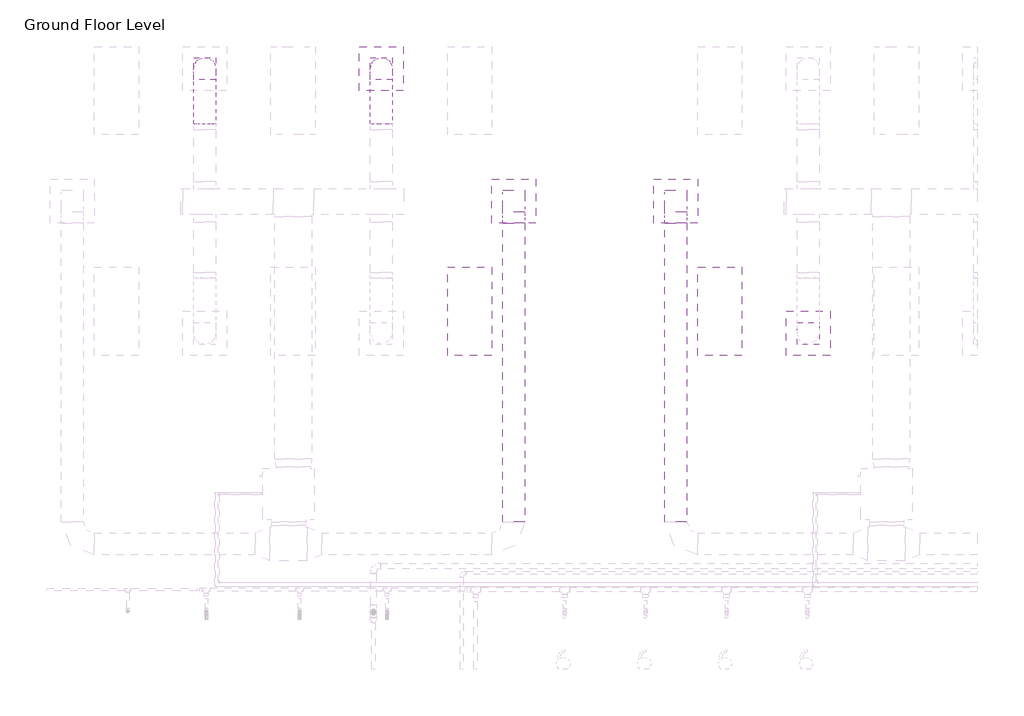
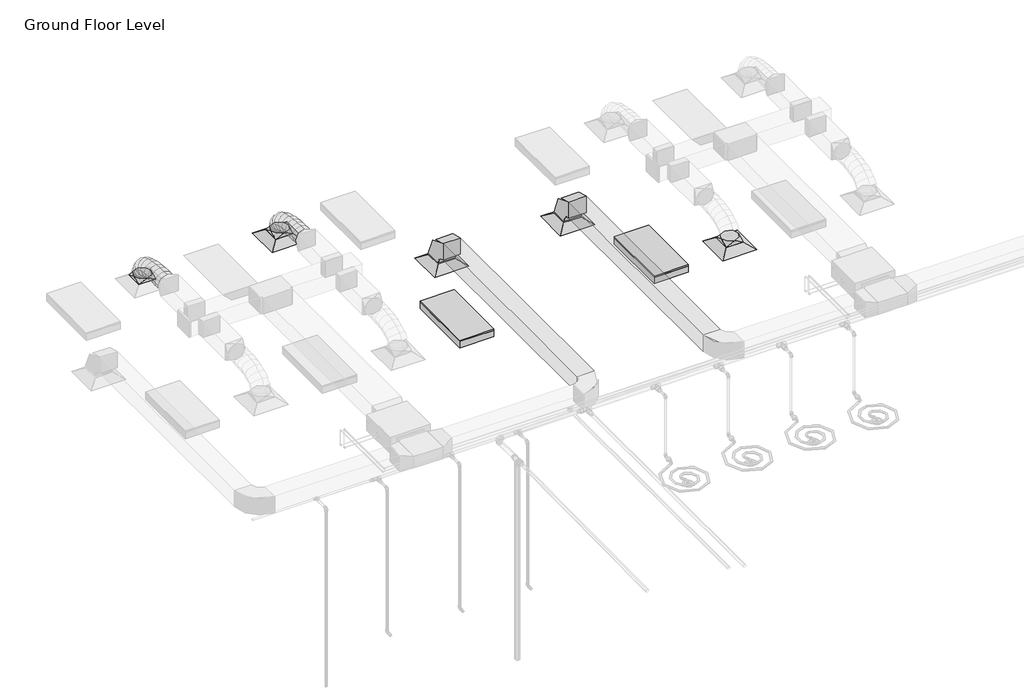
# One storey, part 55 of 74: 6 duct segments, 5 duct fittings, 4 air terminals, 2 light fixtures.
"""IFC4 building model written with IfcOpenShell, lengths in millimetres."""

from ifc_helpers import new_model, si_unit, frame, origin, place, context, project, spatial, polyline, circle_curve, ellipse_curve, outline, extrude, transform, mapped, element, save
from ifc_brep_helpers import plane_surface, cylinder_surface, advanced_brep
from components import m_return_diffuser_600_x_600_face_300_x_300_connection_ff221211, m_rectangular_elbow_radius_1_w_618da153, m_rectangular_to_round_transition_angle_45_degree_641efff0, m_troffer_light_parabolic_rectangular1_0600x1200mm_4_lamp_86473d4a

model = new_model("IFC4")

# Units and contexts
model_context = context("Model", 3, world=origin())
ifc_project = project(units=[si_unit("LENGTHUNIT", "METRE", prefix="MILLI")], contexts=[model_context])

# Site, building, storey
site = spatial("IfcSite", under=ifc_project)
building = spatial("IfcBuilding", under=site)
storey = spatial("IfcBuildingStorey", under=building, Name="Ground Floor Level", Elevation=900.0)

# Air terminals
placement = place(None, origin())
m_return_diffuser_600_x_600_face_300_x_300_connection_shape = m_return_diffuser_600_x_600_face_300_x_300_connection_ff221211(model_context)
element("IfcAirTerminal", 1, ObjectType="M_Return Diffuser : 600 x 600 Face 300 x 300 Connection", at=placement, inside=storey, context=model_context, shape_type="MappedRepresentation", body=[
    mapped(m_return_diffuser_600_x_600_face_300_x_300_connection_shape, transform((-14937.2327605, 18735.2153534, 3650.0), x_axis=(1.0, 0.0, 0.0), y_axis=(0.0, 1.0, 0.0), z_axis=(0.0, 0.0, 1.0))),
])
element("IfcAirTerminal", 2, ObjectType="M_Return Diffuser : 600 x 600 Face 300 x 300 Connection", at=placement, inside=storey, context=model_context, shape_type="MappedRepresentation", body=[
    mapped(m_return_diffuser_600_x_600_face_300_x_300_connection_shape, transform((-12737.2327605, 18735.2153534, 3650.0), x_axis=(1.0, 0.0, 0.0), y_axis=(0.0, 1.0, 0.0), z_axis=(0.0, 0.0, 1.0))),
])
element("IfcAirTerminal", 3, ObjectType="M_Supply Diffuser : 600 x 600 Face 300 x 300 Connection", at=placement, inside=storey, context=model_context, shape_type="MappedRepresentation", body=[
    mapped(m_return_diffuser_600_x_600_face_300_x_300_connection_shape, transform((-16737.2327605, 20535.2153534, 3650.0), x_axis=(1.0, 0.0, 0.0), y_axis=(0.0, 1.0, 0.0), z_axis=(0.0, 0.0, 1.0))),
])
element("IfcAirTerminal", 4, ObjectType="M_Supply Diffuser : 600 x 600 Face 300 x 300 Connection", at=placement, inside=storey, context=model_context, shape_type="MappedRepresentation", body=[
    mapped(m_return_diffuser_600_x_600_face_300_x_300_connection_shape, transform((-10937.2327605, 16935.2153534, 3650.0), x_axis=(1.0, 0.0, 0.0), y_axis=(0.0, 1.0, 0.0), z_axis=(0.0, 0.0, 1.0))),
])

# Duct fittings
m_rectangular_elbow_radius_1_w_shape = m_rectangular_elbow_radius_1_w_618da153(model_context)
element("IfcDuctFitting", 5, ObjectType="M_Rectangular Elbow - Radius : 1 W", at=placement, inside=storey, context=model_context, shape_type="MappedRepresentation", body=[
    mapped(m_rectangular_elbow_radius_1_w_shape, transform((-14937.2327605, 18735.2153534, 4075.2881511), x_axis=(0.0, 0.0, 1.0), y_axis=(0.0, -1.0, 0.0), z_axis=(1.0, 0.0, 0.0))),
])
element("IfcDuctFitting", 6, ObjectType="M_Rectangular Elbow - Radius : 1 W", at=placement, inside=storey, context=model_context, shape_type="MappedRepresentation", body=[
    mapped(m_rectangular_elbow_radius_1_w_shape, transform((-12737.2327605, 18735.2153534, 4075.2872564), x_axis=(0.0, 0.0, 1.0), y_axis=(0.0, -1.0, 0.0), z_axis=(1.0, 0.0, 0.0))),
])
m_rectangular_to_round_transition_angle_45_degree_shape = m_rectangular_to_round_transition_angle_45_degree_641efff0(model_context)
element("IfcDuctFitting", 7, ObjectType="M_Rectangular to Round Transition - Angle : 45 Degree", at=placement, inside=storey, context=model_context, shape_type="MappedRepresentation", body=[
    mapped(m_rectangular_to_round_transition_angle_45_degree_shape, transform((-19137.2327605, 20535.2153534, 3751.6), x_axis=(0.0, 0.0, 1.0), y_axis=(-1.0, 0.0, 0.0), z_axis=(0.0, -1.0, 0.0))),
])
element("IfcDuctFitting", 8, ObjectType="M_Rectangular to Round Transition - Angle : 45 Degree", at=placement, inside=storey, context=model_context, shape_type="MappedRepresentation", body=[
    mapped(m_rectangular_to_round_transition_angle_45_degree_shape, transform((-16737.2327605, 20535.2153534, 3751.6), x_axis=(0.0, 0.0, 1.0), y_axis=(-1.0, 0.0, 0.0), z_axis=(0.0, -1.0, 0.0))),
])
element("IfcDuctFitting", 9, ObjectType="M_Rectangular to Round Transition - Angle : 45 Degree", at=placement, inside=storey, context=model_context, shape_type="MappedRepresentation", body=[
    mapped(m_rectangular_to_round_transition_angle_45_degree_shape, transform((-10937.2327605, 16935.2153534, 3751.6), x_axis=(0.0, 0.0, 1.0), y_axis=(-1.0, 0.0, 0.0), z_axis=(0.0, -1.0, 0.0))),
])

# Duct segments
element("IfcDuctSegment", 10, ObjectType="Flex - Round", at=placement, inside=storey, context=model_context, shape_type="AdvancedBrep", body=[
    advanced_brep(
    [(-18987.2327605, 20535.2153534, 3826.6), (-19137.2327605, 20385.2153534, 3826.6), (-19287.2327605, 20535.2153534, 3826.6), (-19137.2327605, 20685.2153534, 3826.6), (-18987.2327605, 20535.2153534, 3857.9377363), (-19137.2327605, 20385.2153534, 3832.2944836), (-19287.2327605, 20535.2153534, 3857.9377363), (-19137.2327605, 20685.2153534, 3883.580989), (-18987.2327605, 20518.1994044, 3906.2505836), (-19137.2327605, 20384.4614628, 3834.4349814), (-19287.2327605, 20518.1994044, 3906.2505836), (-19137.2327605, 20651.937346, 3978.0661859), (-18987.2327605, 20471.0154793, 3968.711286), (-19137.2327605, 20366.8096815, 3857.8018941), (-19287.2327605, 20471.0154793, 3968.711286), (-19137.2327605, 20575.2212771, 4079.6206779), (-18987.2327605, 20399.4594609, 4016.0699627), (-19137.2327605, 20330.5255652, 3881.8161947), (-19287.2327605, 20399.4594609, 4016.0699627), (-19137.2327605, 20468.3933566, 4150.3237308), (-18987.2327605, 20309.327232, 4050.4144697), (-19137.2327605, 20265.7666436, 3906.4923095), (-19287.2327605, 20309.327232, 4050.4144697), (-19137.2327605, 20352.8878205, 4194.3366298), (-18987.2327605, 20206.4146755, 4073.8326625), (-19137.2327605, 20179.8539172, 3926.0421182), (-19287.2327605, 20206.4146755, 4073.8326625), (-19137.2327605, 20232.9754339, 4221.6232067), (-18987.2327605, 20096.5176742, 4088.4123969), (-19137.2327605, 20081.3669159, 3939.1081192), (-19287.2327605, 20096.5176742, 4088.4123969), (-19137.2327605, 20111.6684325, 4237.7166746), (-18987.2327605, 19985.4321108, 4096.2415287), (-19137.2327605, 19977.9268947, 3946.3984054), (-19287.2327605, 19985.4321108, 4096.2415287), (-19137.2327605, 19992.937327, 4246.0846519), (-18987.2327605, 19878.9538683, 4099.4079135), (-19137.2327605, 19876.262441, 3949.4216408), (-19287.2327605, 19878.9538683, 4099.4079135), (-19137.2327605, 19881.6452955, 4249.3941863), (-18987.2327605, 19782.8788293, 4099.9994072), (-19137.2327605, 19783.8022988, 4249.9965645), (-19287.2327605, 19782.8788293, 4099.9994072), (-19137.2327605, 19781.9553598, 3950.0022499)],
    [
        (0, 1, circle_curve(frame((-19137.2327605, 20535.2153534, 3826.6), z_axis=(0.0, 0.0, -1.0), x_axis=(1.0, 0.0, 0.0)), 150.0)),
        (1, 2, circle_curve(frame((-19137.2327605, 20535.2153534, 3826.6), z_axis=(0.0, 0.0, -1.0), x_axis=(1.0, 0.0, 0.0)), 150.0)),
        (2, 3, circle_curve(frame((-19137.2327605, 20535.2153534, 3826.6), z_axis=(0.0, 0.0, -1.0), x_axis=(1.0, 0.0, 0.0)), 150.0)),
        (3, 0, circle_curve(frame((-19137.2327605, 20535.2153534, 3826.6), z_axis=(0.0, 0.0, -1.0), x_axis=(1.0, 0.0, 0.0)), 150.0)),
        (0, 4),
        (4, 5, ellipse_curve(frame((-19137.2327605, 20535.2153534, 3857.9377363), z_axis=(0.0, 0.16851034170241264, -0.9856998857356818), x_axis=(0.0, -0.9856998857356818, -0.16851034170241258)), 152.1761361, 150.0)),
        (5, 1),
        (5, 6, ellipse_curve(frame((-19137.2327605, 20535.2153534, 3857.9377363), z_axis=(0.0, 0.16851034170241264, -0.9856998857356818), x_axis=(0.0, -0.9856998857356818, -0.16851034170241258)), 152.1761361, 150.0)),
        (6, 2),
        (6, 7, ellipse_curve(frame((-19137.2327605, 20535.2153534, 3857.9377363), z_axis=(0.0, 0.16851034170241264, -0.9856998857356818), x_axis=(0.0, -0.9856998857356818, -0.16851034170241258)), 152.1761361, 150.0)),
        (7, 3),
        (7, 4, ellipse_curve(frame((-19137.2327605, 20535.2153534, 3857.9377363), z_axis=(0.0, 0.16851034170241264, -0.9856998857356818), x_axis=(0.0, -0.9856998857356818, -0.16851034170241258)), 152.1761361, 150.0)),
        (4, 8),
        (8, 9, ellipse_curve(frame((-19137.2327605, 20518.1994044, 3906.2505836), z_axis=(0.0, 0.4730927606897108, -0.8810126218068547), x_axis=(0.0, -0.8810126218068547, -0.47309276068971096)), 151.8002561, 150.0)),
        (9, 5),
        (9, 10, ellipse_curve(frame((-19137.2327605, 20518.1994044, 3906.2505836), z_axis=(0.0, 0.4730927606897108, -0.8810126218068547), x_axis=(0.0, -0.8810126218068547, -0.47309276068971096)), 151.8002561, 150.0)),
        (10, 6),
        (10, 11, ellipse_curve(frame((-19137.2327605, 20518.1994044, 3906.2505836), z_axis=(0.0, 0.4730927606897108, -0.8810126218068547), x_axis=(0.0, -0.8810126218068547, -0.47309276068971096)), 151.8002561, 150.0)),
        (11, 7),
        (11, 8, ellipse_curve(frame((-19137.2327605, 20518.1994044, 3906.2505836), z_axis=(0.0, 0.4730927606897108, -0.8810126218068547), x_axis=(0.0, -0.8810126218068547, -0.47309276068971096)), 151.8002561, 150.0)),
        (8, 12),
        (12, 13, ellipse_curve(frame((-19137.2327605, 20471.0154793, 3968.711286), z_axis=(0.0, 0.7287884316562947, -0.6847389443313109), x_axis=(0.0, -0.6847389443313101, -0.7287884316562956)), 152.1832498, 150.0)),
        (13, 9),
        (13, 14, ellipse_curve(frame((-19137.2327605, 20471.0154793, 3968.711286), z_axis=(0.0, 0.7287884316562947, -0.6847389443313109), x_axis=(0.0, -0.6847389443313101, -0.7287884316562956)), 152.1832498, 150.0)),
        (14, 10),
        (14, 15, ellipse_curve(frame((-19137.2327605, 20471.0154793, 3968.711286), z_axis=(0.0, 0.7287884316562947, -0.6847389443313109), x_axis=(0.0, -0.6847389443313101, -0.7287884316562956)), 152.1832498, 150.0)),
        (15, 11),
        (15, 12, ellipse_curve(frame((-19137.2327605, 20471.0154793, 3968.711286), z_axis=(0.0, 0.7287884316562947, -0.6847389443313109), x_axis=(0.0, -0.6847389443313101, -0.7287884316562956)), 152.1832498, 150.0)),
        (12, 16),
        (16, 17, ellipse_curve(frame((-19137.2327605, 20399.4594609, 4016.0699627), z_axis=(0.0, 0.8895864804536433, -0.45676678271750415), x_axis=(0.0, -0.4567667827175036, -0.8895864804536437)), 150.9170508, 150.0)),
        (17, 13),
        (17, 18, ellipse_curve(frame((-19137.2327605, 20399.4594609, 4016.0699627), z_axis=(0.0, 0.8895864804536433, -0.45676678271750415), x_axis=(0.0, -0.4567667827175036, -0.8895864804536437)), 150.9170508, 150.0)),
        (18, 14),
        (18, 19, ellipse_curve(frame((-19137.2327605, 20399.4594609, 4016.0699627), z_axis=(0.0, 0.8895864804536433, -0.45676678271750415), x_axis=(0.0, -0.4567667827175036, -0.8895864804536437)), 150.9170508, 150.0)),
        (19, 15),
        (19, 16, ellipse_curve(frame((-19137.2327605, 20399.4594609, 4016.0699627), z_axis=(0.0, 0.8895864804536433, -0.45676678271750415), x_axis=(0.0, -0.4567667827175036, -0.8895864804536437)), 150.9170508, 150.0)),
        (16, 20),
        (20, 21, ellipse_curve(frame((-19137.2327605, 20309.327232, 4050.4144697), z_axis=(0.0, 0.9571206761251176, -0.28968950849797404), x_axis=(0.0, -0.2896895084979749, -0.9571206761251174)), 150.3699207, 150.0)),
        (21, 17),
        (21, 22, ellipse_curve(frame((-19137.2327605, 20309.327232, 4050.4144697), z_axis=(0.0, 0.9571206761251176, -0.28968950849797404), x_axis=(0.0, -0.2896895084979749, -0.9571206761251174)), 150.3699207, 150.0)),
        (22, 18),
        (22, 23, ellipse_curve(frame((-19137.2327605, 20309.327232, 4050.4144697), z_axis=(0.0, 0.9571206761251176, -0.28968950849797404), x_axis=(0.0, -0.2896895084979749, -0.9571206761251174)), 150.3699207, 150.0)),
        (23, 19),
        (23, 20, ellipse_curve(frame((-19137.2327605, 20309.327232, 4050.4144697), z_axis=(0.0, 0.9571206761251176, -0.28968950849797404), x_axis=(0.0, -0.2896895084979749, -0.9571206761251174)), 150.3699207, 150.0)),
        (20, 24),
        (24, 25, ellipse_curve(frame((-19137.2327605, 20206.4146755, 4073.8326625), z_axis=(0.0, 0.9842315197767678, -0.17688503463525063), x_axis=(0.0, -0.17688503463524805, -0.9842315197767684)), 150.1583126, 150.0)),
        (25, 21),
        (25, 26, ellipse_curve(frame((-19137.2327605, 20206.4146755, 4073.8326625), z_axis=(0.0, 0.9842315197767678, -0.17688503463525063), x_axis=(0.0, -0.17688503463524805, -0.9842315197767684)), 150.1583126, 150.0)),
        (26, 22),
        (26, 27, ellipse_curve(frame((-19137.2327605, 20206.4146755, 4073.8326625), z_axis=(0.0, 0.9842315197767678, -0.17688503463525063), x_axis=(0.0, -0.17688503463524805, -0.9842315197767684)), 150.1583126, 150.0)),
        (27, 23),
        (27, 24, ellipse_curve(frame((-19137.2327605, 20206.4146755, 4073.8326625), z_axis=(0.0, 0.9842315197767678, -0.17688503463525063), x_axis=(0.0, -0.17688503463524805, -0.9842315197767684)), 150.1583126, 150.0)),
        (24, 28),
        (28, 29, ellipse_curve(frame((-19137.2327605, 20096.5176742, 4088.4123969), z_axis=(0.0, 0.994890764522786, -0.10095725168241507), x_axis=(0.0, -0.10095725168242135, -0.9948907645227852)), 150.0710259, 150.0)),
        (29, 25),
        (29, 30, ellipse_curve(frame((-19137.2327605, 20096.5176742, 4088.4123969), z_axis=(0.0, 0.994890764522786, -0.10095725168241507), x_axis=(0.0, -0.10095725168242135, -0.9948907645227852)), 150.0710259, 150.0)),
        (30, 26),
        (30, 31, ellipse_curve(frame((-19137.2327605, 20096.5176742, 4088.4123969), z_axis=(0.0, 0.994890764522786, -0.10095725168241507), x_axis=(0.0, -0.10095725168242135, -0.9948907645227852)), 150.0710259, 150.0)),
        (31, 27),
        (31, 28, ellipse_curve(frame((-19137.2327605, 20096.5176742, 4088.4123969), z_axis=(0.0, 0.994890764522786, -0.10095725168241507), x_axis=(0.0, -0.10095725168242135, -0.9948907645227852)), 150.0710259, 150.0)),
        (28, 32),
        (32, 33, ellipse_curve(frame((-19137.2327605, 19985.4321108, 4096.2415287), z_axis=(0.0, 0.9987479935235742, -0.05002444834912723), x_axis=(0.0, -0.05002444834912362, -0.9987479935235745)), 150.030963, 150.0)),
        (33, 29),
        (33, 34, ellipse_curve(frame((-19137.2327605, 19985.4321108, 4096.2415287), z_axis=(0.0, 0.9987479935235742, -0.05002444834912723), x_axis=(0.0, -0.05002444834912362, -0.9987479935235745)), 150.030963, 150.0)),
        (34, 30),
        (34, 35, ellipse_curve(frame((-19137.2327605, 19985.4321108, 4096.2415287), z_axis=(0.0, 0.9987479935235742, -0.05002444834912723), x_axis=(0.0, -0.05002444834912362, -0.9987479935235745)), 150.030963, 150.0)),
        (35, 31),
        (35, 32, ellipse_curve(frame((-19137.2327605, 19985.4321108, 4096.2415287), z_axis=(0.0, 0.9987479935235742, -0.05002444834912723), x_axis=(0.0, -0.05002444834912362, -0.9987479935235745)), 150.030963, 150.0)),
        (32, 36),
        (36, 37, ellipse_curve(frame((-19137.2327605, 19878.9538683, 4099.4079135), z_axis=(0.0, 0.9998390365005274, -0.017941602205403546), x_axis=(0.0, -0.01794160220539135, -0.9998390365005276)), 150.0104189, 150.0)),
        (37, 33),
        (37, 38, ellipse_curve(frame((-19137.2327605, 19878.9538683, 4099.4079135), z_axis=(0.0, 0.9998390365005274, -0.017941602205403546), x_axis=(0.0, -0.01794160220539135, -0.9998390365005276)), 150.0104189, 150.0)),
        (38, 34),
        (38, 39, ellipse_curve(frame((-19137.2327605, 19878.9538683, 4099.4079135), z_axis=(0.0, 0.9998390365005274, -0.017941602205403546), x_axis=(0.0, -0.01794160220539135, -0.9998390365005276)), 150.0104189, 150.0)),
        (39, 35),
        (39, 36, ellipse_curve(frame((-19137.2327605, 19878.9538683, 4099.4079135), z_axis=(0.0, 0.9998390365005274, -0.017941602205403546), x_axis=(0.0, -0.01794160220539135, -0.9998390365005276)), 150.0104189, 150.0)),
        (40, 41, circle_curve(frame((-19137.2327605, 19782.8788293, 4099.9994072), z_axis=(0.0, -0.9999810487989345, 0.006156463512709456), x_axis=(1.0, 0.0, 0.0)), 150.0)),
        (41, 42, circle_curve(frame((-19137.2327605, 19782.8788293, 4099.9994072), z_axis=(0.0, -0.9999810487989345, 0.006156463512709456), x_axis=(1.0, 0.0, 0.0)), 150.0)),
        (42, 43, circle_curve(frame((-19137.2327605, 19782.8788293, 4099.9994072), z_axis=(0.0, -0.9999810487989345, 0.006156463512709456), x_axis=(1.0, 0.0, 0.0)), 150.0)),
        (43, 40, circle_curve(frame((-19137.2327605, 19782.8788293, 4099.9994072), z_axis=(0.0, -0.9999810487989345, 0.006156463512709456), x_axis=(1.0, 0.0, 0.0)), 150.0)),
        (36, 40),
        (43, 37),
        (42, 38),
        (41, 39),
    ],
    [
        plane_surface(frame((-19137.2327605, 20385.2153534, 3826.6), z_axis=(0.0, 0.0, -1.0), x_axis=(1.0, 0.0, 0.0))),
        cylinder_surface(frame((-19137.2327605, 20535.2153534, 3826.6), z_axis=(0.0, 0.0, -1.0), x_axis=(1.0, 0.0, 0.0)), 150.0),
        cylinder_surface(frame((-19137.2327605, 20535.2153534, 3857.9377363), z_axis=(0.0, 0.33220124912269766, -0.9432085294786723), x_axis=(1.0, 0.0, 0.0)), 150.0),
        cylinder_surface(frame((-19137.2327605, 20518.1994044, 3906.2505836), z_axis=(0.0, 0.602763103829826, -0.7979201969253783), x_axis=(1.0, 0.0, 0.0)), 150.0),
        cylinder_surface(frame((-19137.2327605, 20471.0154793, 3968.711286), z_axis=(0.0, 0.8339030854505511, -0.5519109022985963), x_axis=(1.0, 0.0, 0.0)), 150.0),
        cylinder_surface(frame((-19137.2327605, 20399.4594609, 4016.0699627), z_axis=(0.0, 0.9344586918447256, -0.3560715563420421), x_axis=(1.0, 0.0, 0.0)), 150.0),
        cylinder_surface(frame((-19137.2327605, 20309.327232, 4050.4144697), z_axis=(0.0, 0.9750734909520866, -0.22188214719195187), x_axis=(1.0, 0.0, 0.0)), 150.0),
        cylinder_surface(frame((-19137.2327605, 20206.4146755, 4073.8326625), z_axis=(0.0, 0.9913141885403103, -0.1315149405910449), x_axis=(1.0, 0.0, 0.0)), 150.0),
        cylinder_surface(frame((-19137.2327605, 20096.5176742, 4088.4123969), z_axis=(0.0, 0.9975256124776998, -0.07030400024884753), x_axis=(1.0, 0.0, 0.0)), 150.0),
        cylinder_surface(frame((-19137.2327605, 19985.4321108, 4096.2415287), z_axis=(0.0, 0.9995581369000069, -0.029724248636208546), x_axis=(1.0, 0.0, 0.0)), 150.0),
        plane_surface(frame((-19137.2327605, 19781.9553598, 3950.0022499), z_axis=(0.0, -0.9999810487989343, 0.0061564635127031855), x_axis=(1.0, 0.0, 0.0))),
        cylinder_surface(frame((-19137.2327605, 19878.9538683, 4099.4079135), z_axis=(0.0, 0.9999810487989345, -0.006156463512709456), x_axis=(1.0, 0.0, 0.0)), 150.0),
    ],
    [
        (0, [[1, 2, 3, 4]]),
        (1, [[-1, 5, 6, 7]]),
        (1, [[-2, -7, 8, 9]]),
        (1, [[-3, -9, 10, 11]]),
        (1, [[-4, -11, 12, -5]]),
        (2, [[-6, 13, 14, 15]]),
        (2, [[-8, -15, 16, 17]]),
        (2, [[-10, -17, 18, 19]]),
        (2, [[-12, -19, 20, -13]]),
        (3, [[-14, 21, 22, 23]]),
        (3, [[-16, -23, 24, 25]]),
        (3, [[-18, -25, 26, 27]]),
        (3, [[-20, -27, 28, -21]]),
        (4, [[-22, 29, 30, 31]]),
        (4, [[-24, -31, 32, 33]]),
        (4, [[-26, -33, 34, 35]]),
        (4, [[-28, -35, 36, -29]]),
        (5, [[-30, 37, 38, 39]]),
        (5, [[-32, -39, 40, 41]]),
        (5, [[-34, -41, 42, 43]]),
        (5, [[-36, -43, 44, -37]]),
        (6, [[-38, 45, 46, 47]]),
        (6, [[-40, -47, 48, 49]]),
        (6, [[-42, -49, 50, 51]]),
        (6, [[-44, -51, 52, -45]]),
        (7, [[-46, 53, 54, 55]]),
        (7, [[-48, -55, 56, 57]]),
        (7, [[-50, -57, 58, 59]]),
        (7, [[-52, -59, 60, -53]]),
        (8, [[-54, 61, 62, 63]]),
        (8, [[-56, -63, 64, 65]]),
        (8, [[-58, -65, 66, 67]]),
        (8, [[-60, -67, 68, -61]]),
        (9, [[-62, 69, 70, 71]]),
        (9, [[-64, -71, 72, 73]]),
        (9, [[-66, -73, 74, 75]]),
        (9, [[-68, -75, 76, -69]]),
        (10, [[77, 78, 79, 80]]),
        (11, [[-70, 81, -80, 82]]),
        (11, [[-72, -82, -79, 83]]),
        (11, [[-74, -83, -78, 84]]),
        (11, [[-76, -84, -77, -81]]),
    ],
),
])
element("IfcDuctSegment", 11, ObjectType="Flex - Round", at=placement, inside=storey, context=model_context, shape_type="AdvancedBrep", body=[
    advanced_brep(
    [(-16587.2327605, 20535.2153534, 3826.6), (-16737.2327605, 20385.2153534, 3826.6), (-16887.2327605, 20535.2153534, 3826.6), (-16737.2327605, 20685.2153534, 3826.6), (-16587.2327605, 20535.2153534, 3857.9377382), (-16737.2327605, 20385.2153534, 3832.2944832), (-16887.2327605, 20535.2153534, 3857.9377382), (-16737.2327605, 20685.2153534, 3883.5809933), (-16587.2327605, 20518.1994031, 3906.2505845), (-16737.2327605, 20384.4614644, 3834.4349763), (-16887.2327605, 20518.1994031, 3906.2505845), (-16737.2327605, 20651.9373419, 3978.0661927), (-16587.2327605, 20471.0154746, 3968.7112839), (-16737.2327605, 20366.8096846, 3857.8018842), (-16887.2327605, 20471.0154746, 3968.7112839), (-16737.2327605, 20575.2212646, 4079.6206836), (-16587.2327605, 20399.4594512, 4016.069955), (-16737.2327605, 20330.5255676, 3881.8161806), (-16887.2327605, 20399.4594512, 4016.069955), (-16737.2327605, 20468.3933347, 4150.3237294), (-16587.2327605, 20309.3272161, 4050.4144545), (-16737.2327605, 20265.7666411, 3906.4922903), (-16887.2327605, 20309.3272161, 4050.4144545), (-16737.2327605, 20352.8877912, 4194.3366186), (-16587.2327605, 20206.4146528, 4073.832639), (-16737.2327605, 20179.8539072, 3926.0420925), (-16887.2327605, 20206.4146528, 4073.832639), (-16737.2327605, 20232.9753985, 4221.6231855), (-16587.2327605, 20096.5176446, 4088.4123653), (-16737.2327605, 20081.3668973, 3939.1080865), (-16887.2327605, 20096.5176446, 4088.4123653), (-16737.2327605, 20111.668392, 4237.7166441), (-16587.2327605, 19985.4320749, 4096.2414901), (-16737.2327605, 19977.9268673, 3946.3983665), (-16887.2327605, 19985.4320749, 4096.2414901), (-16737.2327605, 19992.9372825, 4246.0846137), (-16587.2327605, 19878.9538269, 4099.4078701), (-16737.2327605, 19876.2624046, 3949.4215972), (-16887.2327605, 19878.9538269, 4099.4078701), (-16737.2327605, 19881.6452491, 4249.3941429), (-16587.2327605, 19782.878784, 4099.9993619), (-16737.2327605, 19783.8022506, 4249.9965192), (-16887.2327605, 19782.878784, 4099.9993619), (-16737.2327605, 19781.9553174, 3950.0022045)],
    [
        (0, 1, circle_curve(frame((-16737.2327605, 20535.2153534, 3826.6), z_axis=(0.0, 0.0, -1.0), x_axis=(1.0, 0.0, 0.0)), 150.0)),
        (1, 2, circle_curve(frame((-16737.2327605, 20535.2153534, 3826.6), z_axis=(0.0, 0.0, -1.0), x_axis=(1.0, 0.0, 0.0)), 150.0)),
        (2, 3, circle_curve(frame((-16737.2327605, 20535.2153534, 3826.6), z_axis=(0.0, 0.0, -1.0), x_axis=(1.0, 0.0, 0.0)), 150.0)),
        (3, 0, circle_curve(frame((-16737.2327605, 20535.2153534, 3826.6), z_axis=(0.0, 0.0, -1.0), x_axis=(1.0, 0.0, 0.0)), 150.0)),
        (0, 4),
        (4, 5, ellipse_curve(frame((-16737.2327605, 20535.2153534, 3857.9377382), z_axis=(0.0, 0.16851035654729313, -0.9856998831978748), x_axis=(0.0, -0.9856998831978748, -0.16851035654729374)), 152.1761365, 150.0)),
        (5, 1),
        (5, 6, ellipse_curve(frame((-16737.2327605, 20535.2153534, 3857.9377382), z_axis=(0.0, 0.16851035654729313, -0.9856998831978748), x_axis=(0.0, -0.9856998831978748, -0.16851035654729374)), 152.1761365, 150.0)),
        (6, 2),
        (6, 7, ellipse_curve(frame((-16737.2327605, 20535.2153534, 3857.9377382), z_axis=(0.0, 0.16851035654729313, -0.9856998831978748), x_axis=(0.0, -0.9856998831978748, -0.16851035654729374)), 152.1761365, 150.0)),
        (7, 3),
        (7, 4, ellipse_curve(frame((-16737.2327605, 20535.2153534, 3857.9377382), z_axis=(0.0, 0.16851035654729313, -0.9856998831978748), x_axis=(0.0, -0.9856998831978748, -0.16851035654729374)), 152.1761365, 150.0)),
        (4, 8),
        (8, 9, ellipse_curve(frame((-16737.2327605, 20518.1994031, 3906.2505845), z_axis=(0.0, 0.47309279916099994, -0.8810126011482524), x_axis=(0.0, -0.8810126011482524, -0.4730927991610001)), 151.8002564, 150.0)),
        (9, 5),
        (9, 10, ellipse_curve(frame((-16737.2327605, 20518.1994031, 3906.2505845), z_axis=(0.0, 0.47309279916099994, -0.8810126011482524), x_axis=(0.0, -0.8810126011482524, -0.4730927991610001)), 151.8002564, 150.0)),
        (10, 6),
        (10, 11, ellipse_curve(frame((-16737.2327605, 20518.1994031, 3906.2505845), z_axis=(0.0, 0.47309279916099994, -0.8810126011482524), x_axis=(0.0, -0.8810126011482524, -0.4730927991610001)), 151.8002564, 150.0)),
        (11, 7),
        (11, 8, ellipse_curve(frame((-16737.2327605, 20518.1994031, 3906.2505845), z_axis=(0.0, 0.47309279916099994, -0.8810126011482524), x_axis=(0.0, -0.8810126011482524, -0.4730927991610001)), 151.8002564, 150.0)),
        (8, 12),
        (12, 13, ellipse_curve(frame((-16737.2327605, 20471.0154746, 3968.7112839), z_axis=(0.0, 0.7287884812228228, -0.6847388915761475), x_axis=(0.0, -0.6847388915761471, -0.7287884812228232)), 152.1832501, 150.0)),
        (13, 9),
        (13, 14, ellipse_curve(frame((-16737.2327605, 20471.0154746, 3968.7112839), z_axis=(0.0, 0.7287884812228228, -0.6847388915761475), x_axis=(0.0, -0.6847388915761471, -0.7287884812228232)), 152.1832501, 150.0)),
        (14, 10),
        (14, 15, ellipse_curve(frame((-16737.2327605, 20471.0154746, 3968.7112839), z_axis=(0.0, 0.7287884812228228, -0.6847388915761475), x_axis=(0.0, -0.6847388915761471, -0.7287884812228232)), 152.1832501, 150.0)),
        (15, 11),
        (15, 12, ellipse_curve(frame((-16737.2327605, 20471.0154746, 3968.7112839), z_axis=(0.0, 0.7287884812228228, -0.6847388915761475), x_axis=(0.0, -0.6847388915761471, -0.7287884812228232)), 152.1832501, 150.0)),
        (12, 16),
        (16, 17, ellipse_curve(frame((-16737.2327605, 20399.4594512, 4016.069955), z_axis=(0.0, 0.8895865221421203, -0.4567667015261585), x_axis=(0.0, -0.45676670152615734, -0.8895865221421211)), 150.9170508, 150.0)),
        (17, 13),
        (17, 18, ellipse_curve(frame((-16737.2327605, 20399.4594512, 4016.069955), z_axis=(0.0, 0.8895865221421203, -0.4567667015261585), x_axis=(0.0, -0.45676670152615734, -0.8895865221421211)), 150.9170508, 150.0)),
        (18, 14),
        (18, 19, ellipse_curve(frame((-16737.2327605, 20399.4594512, 4016.069955), z_axis=(0.0, 0.8895865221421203, -0.4567667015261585), x_axis=(0.0, -0.45676670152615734, -0.8895865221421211)), 150.9170508, 150.0)),
        (19, 15),
        (19, 16, ellipse_curve(frame((-16737.2327605, 20399.4594512, 4016.069955), z_axis=(0.0, 0.8895865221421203, -0.4567667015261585), x_axis=(0.0, -0.45676670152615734, -0.8895865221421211)), 150.9170508, 150.0)),
        (16, 20),
        (20, 21, ellipse_curve(frame((-16737.2327605, 20309.3272161, 4050.4144545), z_axis=(0.0, 0.9571207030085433, -0.28968941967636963), x_axis=(0.0, -0.2896894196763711, -0.9571207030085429)), 150.3699206, 150.0)),
        (21, 17),
        (21, 22, ellipse_curve(frame((-16737.2327605, 20309.3272161, 4050.4144545), z_axis=(0.0, 0.9571207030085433, -0.28968941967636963), x_axis=(0.0, -0.2896894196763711, -0.9571207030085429)), 150.3699206, 150.0)),
        (22, 18),
        (22, 23, ellipse_curve(frame((-16737.2327605, 20309.3272161, 4050.4144545), z_axis=(0.0, 0.9571207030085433, -0.28968941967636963), x_axis=(0.0, -0.2896894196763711, -0.9571207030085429)), 150.3699206, 150.0)),
        (23, 19),
        (23, 20, ellipse_curve(frame((-16737.2327605, 20309.3272161, 4050.4144545), z_axis=(0.0, 0.9571207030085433, -0.28968941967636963), x_axis=(0.0, -0.2896894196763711, -0.9571207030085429)), 150.3699206, 150.0)),
        (20, 24),
        (24, 25, ellipse_curve(frame((-16737.2327605, 20206.4146528, 4073.832639), z_axis=(0.0, 0.9842315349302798, -0.17688495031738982), x_axis=(0.0, -0.1768849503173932, -0.9842315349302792)), 150.1583126, 150.0)),
        (25, 21),
        (25, 26, ellipse_curve(frame((-16737.2327605, 20206.4146528, 4073.832639), z_axis=(0.0, 0.9842315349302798, -0.17688495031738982), x_axis=(0.0, -0.1768849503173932, -0.9842315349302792)), 150.1583126, 150.0)),
        (26, 22),
        (26, 27, ellipse_curve(frame((-16737.2327605, 20206.4146528, 4073.832639), z_axis=(0.0, 0.9842315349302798, -0.17688495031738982), x_axis=(0.0, -0.1768849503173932, -0.9842315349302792)), 150.1583126, 150.0)),
        (27, 23),
        (27, 24, ellipse_curve(frame((-16737.2327605, 20206.4146528, 4073.832639), z_axis=(0.0, 0.9842315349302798, -0.17688495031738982), x_axis=(0.0, -0.1768849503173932, -0.9842315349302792)), 150.1583126, 150.0)),
        (24, 28),
        (28, 29, ellipse_curve(frame((-16737.2327605, 20096.5176446, 4088.4123653), z_axis=(0.0, 0.9948907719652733, -0.10095717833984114), x_axis=(0.0, -0.10095717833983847, -0.9948907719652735)), 150.0710259, 150.0)),
        (29, 25),
        (29, 30, ellipse_curve(frame((-16737.2327605, 20096.5176446, 4088.4123653), z_axis=(0.0, 0.9948907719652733, -0.10095717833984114), x_axis=(0.0, -0.10095717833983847, -0.9948907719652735)), 150.0710259, 150.0)),
        (30, 26),
        (30, 31, ellipse_curve(frame((-16737.2327605, 20096.5176446, 4088.4123653), z_axis=(0.0, 0.9948907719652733, -0.10095717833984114), x_axis=(0.0, -0.10095717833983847, -0.9948907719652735)), 150.0710259, 150.0)),
        (31, 27),
        (31, 28, ellipse_curve(frame((-16737.2327605, 20096.5176446, 4088.4123653), z_axis=(0.0, 0.9948907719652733, -0.10095717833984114), x_axis=(0.0, -0.10095717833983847, -0.9948907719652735)), 150.0710259, 150.0)),
        (28, 32),
        (32, 33, ellipse_curve(frame((-16737.2327605, 19985.4320749, 4096.2414901), z_axis=(0.0, 0.9987479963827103, -0.050024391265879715), x_axis=(0.0, -0.05002439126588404, -0.9987479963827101)), 150.0309629, 150.0)),
        (33, 29),
        (33, 34, ellipse_curve(frame((-16737.2327605, 19985.4320749, 4096.2414901), z_axis=(0.0, 0.9987479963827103, -0.050024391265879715), x_axis=(0.0, -0.05002439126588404, -0.9987479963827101)), 150.0309629, 150.0)),
        (34, 30),
        (34, 35, ellipse_curve(frame((-16737.2327605, 19985.4320749, 4096.2414901), z_axis=(0.0, 0.9987479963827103, -0.050024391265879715), x_axis=(0.0, -0.05002439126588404, -0.9987479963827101)), 150.0309629, 150.0)),
        (35, 31),
        (35, 32, ellipse_curve(frame((-16737.2327605, 19985.4320749, 4096.2414901), z_axis=(0.0, 0.9987479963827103, -0.050024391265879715), x_axis=(0.0, -0.05002439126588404, -0.9987479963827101)), 150.0309629, 150.0)),
        (32, 36),
        (36, 37, ellipse_curve(frame((-16737.2327605, 19878.9538269, 4099.4078701), z_axis=(0.0, 0.9998390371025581, -0.01794156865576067), x_axis=(0.0, -0.017941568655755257, -0.9998390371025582)), 150.0104189, 150.0)),
        (37, 33),
        (37, 38, ellipse_curve(frame((-16737.2327605, 19878.9538269, 4099.4078701), z_axis=(0.0, 0.9998390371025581, -0.01794156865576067), x_axis=(0.0, -0.017941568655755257, -0.9998390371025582)), 150.0104189, 150.0)),
        (38, 34),
        (38, 39, ellipse_curve(frame((-16737.2327605, 19878.9538269, 4099.4078701), z_axis=(0.0, 0.9998390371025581, -0.01794156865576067), x_axis=(0.0, -0.017941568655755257, -0.9998390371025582)), 150.0104189, 150.0)),
        (39, 35),
        (39, 36, ellipse_curve(frame((-16737.2327605, 19878.9538269, 4099.4078701), z_axis=(0.0, 0.9998390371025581, -0.01794156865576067), x_axis=(0.0, -0.017941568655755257, -0.9998390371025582)), 150.0104189, 150.0)),
        (40, 41, circle_curve(frame((-16737.2327605, 19782.878784, 4099.9993619), z_axis=(0.0, -0.9999810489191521, 0.0061564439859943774), x_axis=(1.0, 0.0, 0.0)), 150.0)),
        (41, 42, circle_curve(frame((-16737.2327605, 19782.878784, 4099.9993619), z_axis=(0.0, -0.9999810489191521, 0.0061564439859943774), x_axis=(1.0, 0.0, 0.0)), 150.0)),
        (42, 43, circle_curve(frame((-16737.2327605, 19782.878784, 4099.9993619), z_axis=(0.0, -0.9999810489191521, 0.0061564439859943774), x_axis=(1.0, 0.0, 0.0)), 150.0)),
        (43, 40, circle_curve(frame((-16737.2327605, 19782.878784, 4099.9993619), z_axis=(0.0, -0.9999810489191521, 0.0061564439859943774), x_axis=(1.0, 0.0, 0.0)), 150.0)),
        (36, 40),
        (43, 37),
        (42, 38),
        (41, 39),
    ],
    [
        plane_surface(frame((-16737.2327605, 20385.2153534, 3826.6), z_axis=(0.0, 0.0, -1.0), x_axis=(1.0, 0.0, 0.0))),
        cylinder_surface(frame((-16737.2327605, 20535.2153534, 3826.6), z_axis=(0.0, 0.0, -1.0), x_axis=(1.0, 0.0, 0.0)), 150.0),
        cylinder_surface(frame((-16737.2327605, 20535.2153534, 3857.9377382), z_axis=(0.0, 0.33220127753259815, -0.9432085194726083), x_axis=(1.0, 0.0, 0.0)), 150.0),
        cylinder_surface(frame((-16737.2327605, 20518.1994031, 3906.2505845), z_axis=(0.0, 0.6027631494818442, -0.79792016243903), x_axis=(1.0, 0.0, 0.0)), 150.0),
        cylinder_surface(frame((-16737.2327605, 20471.0154746, 3968.7112839), z_axis=(0.0, 0.833903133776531, -0.5519108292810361), x_axis=(1.0, 0.0, 0.0)), 150.0),
        cylinder_surface(frame((-16737.2327605, 20399.4594512, 4016.069955), z_axis=(0.0, 0.9344587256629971, -0.3560714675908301), x_axis=(1.0, 0.0, 0.0)), 150.0),
        cylinder_surface(frame((-16737.2327605, 20309.3272161, 4050.4144545), z_axis=(0.0, 0.9750735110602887, -0.22188205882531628), x_axis=(1.0, 0.0, 0.0)), 150.0),
        cylinder_surface(frame((-16737.2327605, 20206.4146528, 4073.832639), z_axis=(0.0, 0.9913141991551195, -0.13151486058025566), x_axis=(1.0, 0.0, 0.0)), 150.0),
        cylinder_surface(frame((-16737.2327605, 20096.5176446, 4088.4123653), z_axis=(0.0, 0.997525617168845, -0.07030393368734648), x_axis=(1.0, 0.0, 0.0)), 150.0),
        cylinder_surface(frame((-16737.2327605, 19985.4320749, 4096.2414901), z_axis=(0.0, 0.9995581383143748, -0.029724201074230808), x_axis=(1.0, 0.0, 0.0)), 150.0),
        plane_surface(frame((-16737.2327605, 19781.9553174, 3950.0022045), z_axis=(0.0, -0.999981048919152, 0.0061564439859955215), x_axis=(1.0, 0.0, 0.0))),
        cylinder_surface(frame((-16737.2327605, 19878.9538269, 4099.4078701), z_axis=(0.0, 0.9999810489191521, -0.0061564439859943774), x_axis=(1.0, 0.0, 0.0)), 150.0),
    ],
    [
        (0, [[1, 2, 3, 4]]),
        (1, [[-1, 5, 6, 7]]),
        (1, [[-2, -7, 8, 9]]),
        (1, [[-3, -9, 10, 11]]),
        (1, [[-4, -11, 12, -5]]),
        (2, [[-6, 13, 14, 15]]),
        (2, [[-8, -15, 16, 17]]),
        (2, [[-10, -17, 18, 19]]),
        (2, [[-12, -19, 20, -13]]),
        (3, [[-14, 21, 22, 23]]),
        (3, [[-16, -23, 24, 25]]),
        (3, [[-18, -25, 26, 27]]),
        (3, [[-20, -27, 28, -21]]),
        (4, [[-22, 29, 30, 31]]),
        (4, [[-24, -31, 32, 33]]),
        (4, [[-26, -33, 34, 35]]),
        (4, [[-28, -35, 36, -29]]),
        (5, [[-30, 37, 38, 39]]),
        (5, [[-32, -39, 40, 41]]),
        (5, [[-34, -41, 42, 43]]),
        (5, [[-36, -43, 44, -37]]),
        (6, [[-38, 45, 46, 47]]),
        (6, [[-40, -47, 48, 49]]),
        (6, [[-42, -49, 50, 51]]),
        (6, [[-44, -51, 52, -45]]),
        (7, [[-46, 53, 54, 55]]),
        (7, [[-48, -55, 56, 57]]),
        (7, [[-50, -57, 58, 59]]),
        (7, [[-52, -59, 60, -53]]),
        (8, [[-54, 61, 62, 63]]),
        (8, [[-56, -63, 64, 65]]),
        (8, [[-58, -65, 66, 67]]),
        (8, [[-60, -67, 68, -61]]),
        (9, [[-62, 69, 70, 71]]),
        (9, [[-64, -71, 72, 73]]),
        (9, [[-66, -73, 74, 75]]),
        (9, [[-68, -75, 76, -69]]),
        (10, [[77, 78, 79, 80]]),
        (11, [[-70, 81, -80, 82]]),
        (11, [[-72, -82, -79, 83]]),
        (11, [[-74, -83, -78, 84]]),
        (11, [[-76, -84, -77, -81]]),
    ],
),
])
element("IfcDuctSegment", 12, ObjectType="Radius Elbows / Taps", at=placement, inside=storey, context=model_context, shape_type="SweptSolid", body=[
    extrude(outline(polyline([(-14787.2327605, 14369.8153534), (-15087.2327605, 14369.8153534), (-15087.2327605, 18435.2153534), (-14787.2327605, 18435.2153534), (-14787.2327605, 14369.8153534)])), frame((0.0, 0.0, 3925.2881511), z_axis=(0.0, 0.0, 1.0), x_axis=(1.0, 0.0, 0.0)), (0.0, 0.0, 1.0), 300.0),
])
element("IfcDuctSegment", 13, ObjectType="Radius Elbows / Taps", at=placement, inside=storey, context=model_context, shape_type="SweptSolid", body=[
    extrude(outline(polyline([(-14787.2327605, 18585.2153534), (-15087.2327605, 18585.2153534), (-15087.2327605, 18885.2153534), (-14787.2327605, 18885.2153534), (-14787.2327605, 18585.2153534)])), frame((0.0, 0.0, 3751.6), z_axis=(0.0, 0.0, 1.0), x_axis=(1.0, 0.0, 0.0)), (0.0, 0.0, 1.0), 23.6881511),
])
element("IfcDuctSegment", 14, ObjectType="Radius Elbows / Taps", at=placement, inside=storey, context=model_context, shape_type="SweptSolid", body=[
    extrude(outline(polyline([(-12587.2327605, 14369.8153534), (-12887.2327605, 14369.8153534), (-12887.2327605, 18435.2153534), (-12587.2327605, 18435.2153534), (-12587.2327605, 14369.8153534)])), frame((0.0, 0.0, 3925.2872564), z_axis=(0.0, 0.0, 1.0), x_axis=(1.0, 0.0, 0.0)), (0.0, 0.0, 1.0), 300.0),
])
element("IfcDuctSegment", 15, ObjectType="Radius Elbows / Taps", at=placement, inside=storey, context=model_context, shape_type="SweptSolid", body=[
    extrude(outline(polyline([(-12587.2327605, 18585.2153534), (-12887.2327605, 18585.2153534), (-12887.2327605, 18885.2153534), (-12587.2327605, 18885.2153534), (-12587.2327605, 18585.2153534)])), frame((0.0, 0.0, 3751.6), z_axis=(0.0, 0.0, 1.0), x_axis=(1.0, 0.0, 0.0)), (0.0, 0.0, 1.0), 23.6872564),
])

# Light fixtures
m_troffer_light_parabolic_rectangular1_0600x1200mm_4_lamp_shape = m_troffer_light_parabolic_rectangular1_0600x1200mm_4_lamp_86473d4a(model_context)
element("IfcLightFixture", 16, ObjectType="M_Troffer Light - Parabolic Rectangular1 : 0600x1200mm(4 Lamp) - 277V 2", at=placement, inside=storey, context=model_context, shape_type="MappedRepresentation", body=[
    mapped(m_troffer_light_parabolic_rectangular1_0600x1200mm_4_lamp_shape, transform((-15596.6986926, 17253.918855, 3650.0), x_axis=(0.0, 1.0, 0.0), y_axis=(-1.0, 0.0, 0.0), z_axis=(0.0, 0.0, 1.0))),
])
element("IfcLightFixture", 17, ObjectType="M_Troffer Light - Parabolic Rectangular1 : 0600x1200mm(4 Lamp) - 277V 2", at=placement, inside=storey, context=model_context, shape_type="MappedRepresentation", body=[
    mapped(m_troffer_light_parabolic_rectangular1_0600x1200mm_4_lamp_shape, transform((-12196.6986926, 17253.918855, 3650.0), x_axis=(0.0, 1.0, 0.0), y_axis=(-1.0, 0.0, 0.0), z_axis=(0.0, 0.0, 1.0))),
])

save(model, "model.ifc")
